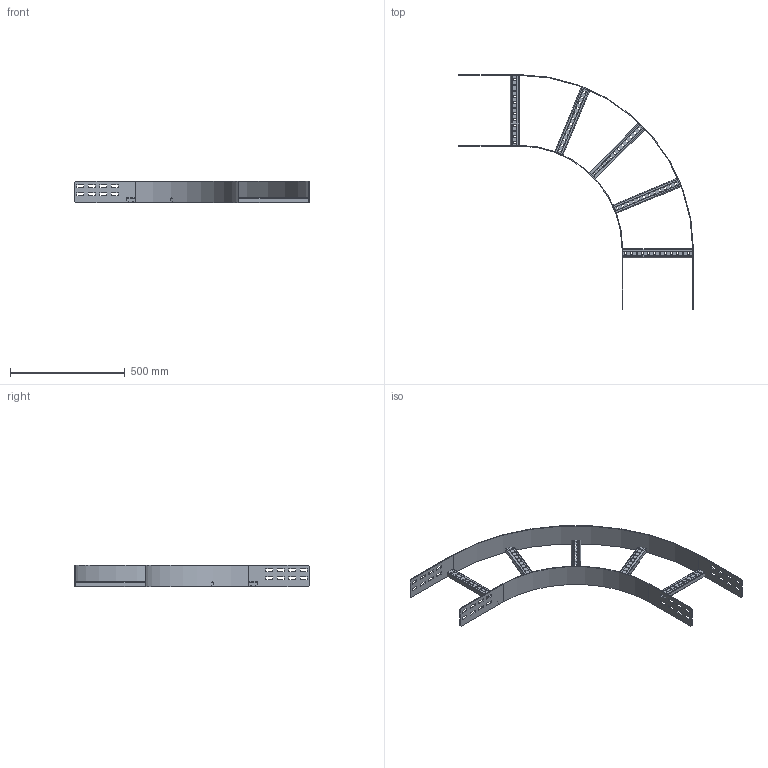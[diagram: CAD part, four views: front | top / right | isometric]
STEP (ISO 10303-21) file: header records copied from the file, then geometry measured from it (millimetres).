
FILE_DESCRIPTION(('Creo Elements/Direct Modeling STEP Export'),'2;1');
FILE_NAME('WPHB10-30-90-45.stp','2016-06-01T10:46:38',(''),(''),'PTC Creo Elements/Direct Modeling STEP processor for AP214 (Solid Model)','PTC Creo Elements/Direct Modeling 19.0C 15-Aug-2015 (C) Parametric Technology GmbH','');
FILE_SCHEMA(('AUTOMOTIVE_DESIGN { 1 0 10303 214 1 1 1 1 }'));
Length unit declared in the file: millimetre
Products named in the file (4): WPHBI_100; WPHBA_100-30; WPHBS30; WPHB10-30-90-45
Assembly tree (7 placements, depth 2):
  WPHB10-30-90-45
    WPHBS30  x5
    WPHBA_100-30
    WPHBI_100
Bounding box: 1023 x 1023 x 95 mm (x, y, z)
Volume: 1030751.8 mm3; surface area: 872097.1 mm2
Topology: 7 solids, 7 shells, 596 faces, 1746 edges, 1164 vertices
Faces by surface type: plane 382, cylinder 214
Entity records: 8318 total; most frequent: CARTESIAN_POINT 1441, ORIENTED_EDGE 1428, DIRECTION 1308, EDGE_CURVE 714, VECTOR 622, LINE 622, VERTEX_POINT 476, AXIS2_PLACEMENT_3D 343
